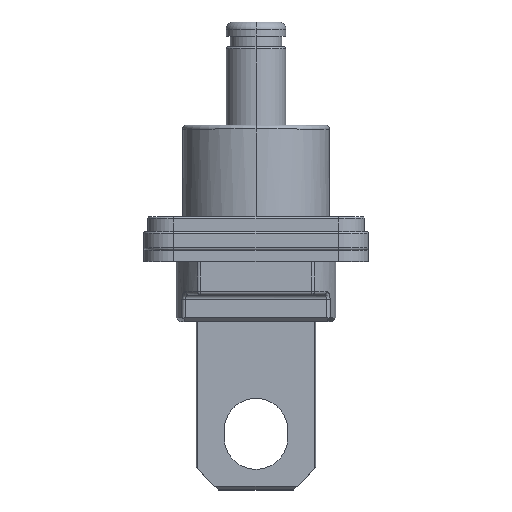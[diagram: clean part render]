
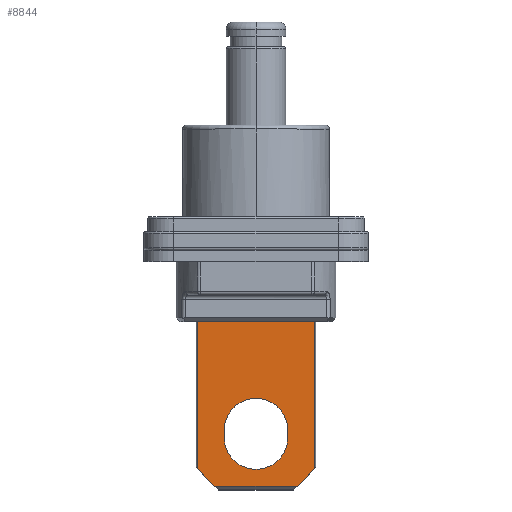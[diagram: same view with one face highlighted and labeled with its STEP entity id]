
A CAD part, top view. The second image highlights one B-rep face of the part: STEP entity #8844.
In plain terms, the highlighted planar face has unit normal (0, 0, 1).
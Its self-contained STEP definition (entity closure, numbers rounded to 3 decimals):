
#13 = CIRCLE ( 'NONE', #920, 4.25 ) ;
#288 = ORIENTED_EDGE ( 'NONE', *, *, #2881, .T. ) ;
#340 = AXIS2_PLACEMENT_3D ( 'NONE', #3435, #9374, #4301 ) ;
#552 = AXIS2_PLACEMENT_3D ( 'NONE', #4085, #10010, #4941 ) ;
#572 = CIRCLE ( 'NONE', #552, 4.25 ) ;
#820 = CARTESIAN_POINT ( 'NONE',  ( -4.25, -24., 1.7 ) ) ;
#843 = LINE ( 'NONE', #1465, #9372 ) ;
#920 = AXIS2_PLACEMENT_3D ( 'NONE', #3592, #9519, #4453 ) ;
#1000 = VECTOR ( 'NONE', #8801, 1000. ) ;
#1257 = ORIENTED_EDGE ( 'NONE', *, *, #8657, .T. ) ;
#1465 = CARTESIAN_POINT ( 'NONE',  ( 7.817, -31., 1.7 ) ) ;
#1553 = CARTESIAN_POINT ( 'NONE',  ( -4.25, -23., 1.7 ) ) ;
#1568 = DIRECTION ( 'NONE',  ( 1., 0., 0. ) ) ;
#1620 = LINE ( 'NONE', #5445, #3608 ) ;
#1776 = LINE ( 'NONE', #3827, #8292 ) ;
#1874 = VERTEX_POINT ( 'NONE', #2747 ) ;
#1965 = VECTOR ( 'NONE', #7503, 1000. ) ;
#1982 = CARTESIAN_POINT ( 'NONE',  ( -5.5, -30.5, 1.7 ) ) ;
#2189 = VECTOR ( 'NONE', #1568, 1000. ) ;
#2233 = EDGE_LOOP ( 'NONE', ( #2906, #6506, #9923, #4509 ) ) ;
#2345 = VECTOR ( 'NONE', #8444, 1000. ) ;
#2526 = VERTEX_POINT ( 'NONE', #820 ) ;
#2701 = CARTESIAN_POINT ( 'NONE',  ( -4.25, -23., 1.7 ) ) ;
#2747 = CARTESIAN_POINT ( 'NONE',  ( 4.25, -24., 1.7 ) ) ;
#2881 = EDGE_CURVE ( 'NONE', #9909, #9722, #1776, .T. ) ;
#2906 = ORIENTED_EDGE ( 'NONE', *, *, #4019, .F. ) ;
#2990 = DIRECTION ( 'NONE',  ( -1., 0., 0. ) ) ;
#3435 = CARTESIAN_POINT ( 'NONE',  ( 7.817, -31., 1.7 ) ) ;
#3493 = VECTOR ( 'NONE', #7978, 1000. ) ;
#3592 = CARTESIAN_POINT ( 'NONE',  ( 0., -23., 1.7 ) ) ;
#3608 = VECTOR ( 'NONE', #6321, 1000. ) ;
#3804 = FACE_BOUND ( 'NONE', #2233, .T. ) ;
#3827 = CARTESIAN_POINT ( 'NONE',  ( 7.817, -7., 1.7 ) ) ;
#3857 = EDGE_CURVE ( 'NONE', #1874, #10903, #7803, .T. ) ;
#4019 = EDGE_CURVE ( 'NONE', #4612, #2526, #5965, .T. ) ;
#4048 = DIRECTION ( 'NONE',  ( 0., 1., 0. ) ) ;
#4085 = CARTESIAN_POINT ( 'NONE',  ( 0., -24., 1.7 ) ) ;
#4228 = PLANE ( 'NONE',  #340 ) ;
#4301 = DIRECTION ( 'NONE',  ( -1., 0., 0. ) ) ;
#4453 = DIRECTION ( 'NONE',  ( -1., 0., 0. ) ) ;
#4509 = ORIENTED_EDGE ( 'NONE', *, *, #8690, .F. ) ;
#4574 = CARTESIAN_POINT ( 'NONE',  ( -8., -28., 1.7 ) ) ;
#4602 = LINE ( 'NONE', #7578, #2345 ) ;
#4612 = VERTEX_POINT ( 'NONE', #2701 ) ;
#4660 = ORIENTED_EDGE ( 'NONE', *, *, #10054, .F. ) ;
#4941 = DIRECTION ( 'NONE',  ( -1., 0., 0. ) ) ;
#5248 = LINE ( 'NONE', #6673, #2189 ) ;
#5368 = VERTEX_POINT ( 'NONE', #1982 ) ;
#5430 = VERTEX_POINT ( 'NONE', #7946 ) ;
#5445 = CARTESIAN_POINT ( 'NONE',  ( 8., -28., 1.7 ) ) ;
#5594 = ORIENTED_EDGE ( 'NONE', *, *, #8164, .F. ) ;
#5702 = EDGE_CURVE ( 'NONE', #10512, #5430, #1620, .T. ) ;
#5765 = LINE ( 'NONE', #4574, #3493 ) ;
#5965 = LINE ( 'NONE', #1553, #1965 ) ;
#6321 = DIRECTION ( 'NONE',  ( -0.707, -0.707, 0. ) ) ;
#6506 = ORIENTED_EDGE ( 'NONE', *, *, #10461, .F. ) ;
#6665 = CARTESIAN_POINT ( 'NONE',  ( 4.25, -23., 1.7 ) ) ;
#6673 = CARTESIAN_POINT ( 'NONE',  ( 5., -30.5, 1.7 ) ) ;
#7503 = DIRECTION ( 'NONE',  ( 0., -1., 0. ) ) ;
#7578 = CARTESIAN_POINT ( 'NONE',  ( -7.817, -31., 1.7 ) ) ;
#7612 = CARTESIAN_POINT ( 'NONE',  ( -7.817, -28.183, 1.7 ) ) ;
#7803 = LINE ( 'NONE', #7983, #1000 ) ;
#7946 = CARTESIAN_POINT ( 'NONE',  ( 5.5, -30.5, 1.7 ) ) ;
#7978 = DIRECTION ( 'NONE',  ( -0.707, 0.707, 0. ) ) ;
#7983 = CARTESIAN_POINT ( 'NONE',  ( 4.25, -23., 1.7 ) ) ;
#8040 = FACE_OUTER_BOUND ( 'NONE', #10244, .T. ) ;
#8164 = EDGE_CURVE ( 'NONE', #10958, #9722, #4602, .T. ) ;
#8292 = VECTOR ( 'NONE', #2990, 1000. ) ;
#8332 = CARTESIAN_POINT ( 'NONE',  ( -7.817, -7., 1.7 ) ) ;
#8444 = DIRECTION ( 'NONE',  ( 0., 1., 0. ) ) ;
#8657 = EDGE_CURVE ( 'NONE', #10512, #9909, #843, .T. ) ;
#8690 = EDGE_CURVE ( 'NONE', #2526, #1874, #572, .T. ) ;
#8754 = CARTESIAN_POINT ( 'NONE',  ( 7.817, -28.183, 1.7 ) ) ;
#8763 = ORIENTED_EDGE ( 'NONE', *, *, #9245, .T. ) ;
#8801 = DIRECTION ( 'NONE',  ( 0., 1., 0. ) ) ;
#8844 = ADVANCED_FACE ( 'NONE', ( #3804, #8040 ), #4228, .F. ) ;
#9245 = EDGE_CURVE ( 'NONE', #5368, #5430, #5248, .T. ) ;
#9372 = VECTOR ( 'NONE', #4048, 1000. ) ;
#9374 = DIRECTION ( 'NONE',  ( 0., 0., -1. ) ) ;
#9497 = CARTESIAN_POINT ( 'NONE',  ( 7.817, -7., 1.7 ) ) ;
#9519 = DIRECTION ( 'NONE',  ( 0., 0., 1. ) ) ;
#9722 = VERTEX_POINT ( 'NONE', #8332 ) ;
#9909 = VERTEX_POINT ( 'NONE', #9497 ) ;
#9923 = ORIENTED_EDGE ( 'NONE', *, *, #3857, .F. ) ;
#10010 = DIRECTION ( 'NONE',  ( 0., 0., 1. ) ) ;
#10054 = EDGE_CURVE ( 'NONE', #5368, #10958, #5765, .T. ) ;
#10244 = EDGE_LOOP ( 'NONE', ( #4660, #8763, #10949, #1257, #288, #5594 ) ) ;
#10461 = EDGE_CURVE ( 'NONE', #10903, #4612, #13, .T. ) ;
#10512 = VERTEX_POINT ( 'NONE', #8754 ) ;
#10903 = VERTEX_POINT ( 'NONE', #6665 ) ;
#10949 = ORIENTED_EDGE ( 'NONE', *, *, #5702, .F. ) ;
#10958 = VERTEX_POINT ( 'NONE', #7612 ) ;
